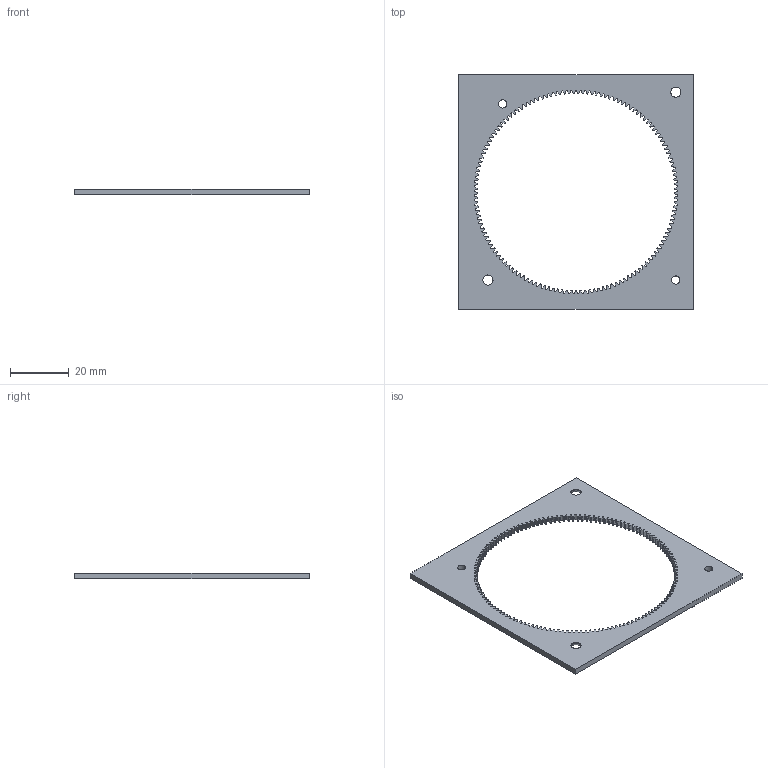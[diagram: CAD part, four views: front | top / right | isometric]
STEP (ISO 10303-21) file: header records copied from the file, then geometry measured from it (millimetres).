
FILE_DESCRIPTION (( 'STEP AP203' ), '1' );
FILE_NAME ('039 taille engrenage.STEP', '2021-10-27T18:30:02', ( '' ), ( '' ), 'SwSTEP 2.0', 'SolidWorks 2019', '' );
FILE_SCHEMA (( 'CONFIG_CONTROL_DESIGN' ));
Length unit declared in the file: millimetre
Products named in the file (1): 039 taille engrenage
Bounding box: 80 x 80 x 2 mm (x, y, z)
Volume: 5345.3 mm3; surface area: 6932.9 mm2
Topology: 1 solids, 1 shells, 894 faces, 2672 edges, 1780 vertices
Faces by surface type: cylinder 610, bspline 274, plane 6, cone 4
Entity records: 33485 total; most frequent: CARTESIAN_POINT 10005, ORIENTED_EDGE 5344, DIRECTION 4590, EDGE_CURVE 2672, AXIS2_PLACEMENT_3D 1845, VERTEX_POINT 1780, CIRCLE 1224, EDGE_LOOP 904
